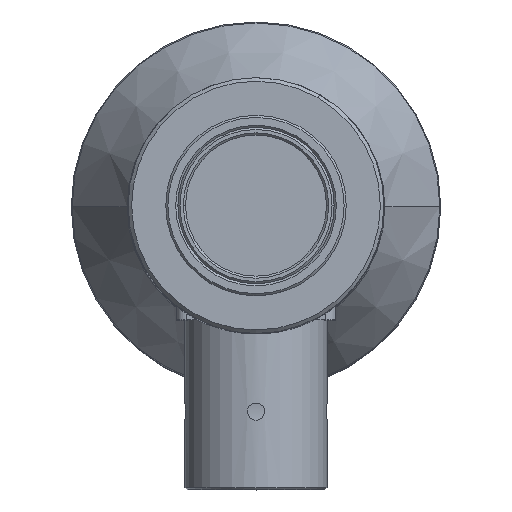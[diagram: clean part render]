
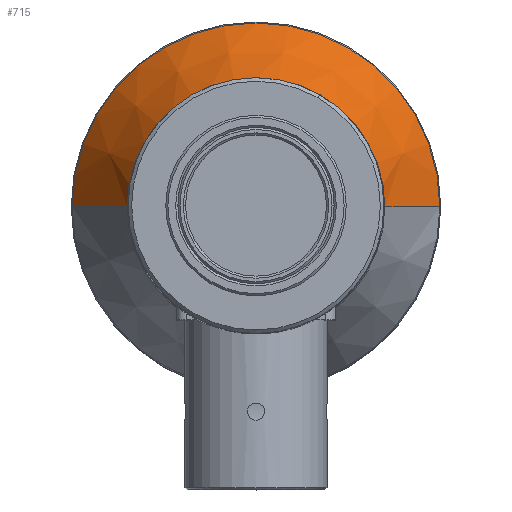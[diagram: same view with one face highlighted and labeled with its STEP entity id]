
A CAD part, top view. The second image highlights one B-rep face of the part: STEP entity #715.
In plain terms, the highlighted conical face has half-angle 30 degrees and reference radius 26 mm.
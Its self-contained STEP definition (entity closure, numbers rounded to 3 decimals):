
#186 = EDGE_CURVE ( 'NONE', #3292, #1090, #2436, .T. ) ;
#278 = CIRCLE ( 'NONE', #4494, 18.134 ) ;
#425 = FACE_OUTER_BOUND ( 'NONE', #582, .T. ) ;
#582 = EDGE_LOOP ( 'NONE', ( #970, #3163, #1708, #4678 ) ) ;
#715 = ADVANCED_FACE ( 'NONE', ( #425 ), #4404, .T. ) ;
#735 = DIRECTION ( 'NONE',  ( 0.5, 0., -0.866 ) ) ;
#962 = VECTOR ( 'NONE', #735, 1000. ) ;
#970 = ORIENTED_EDGE ( 'NONE', *, *, #2956, .T. ) ;
#1017 = LINE ( 'NONE', #1894, #962 ) ;
#1090 = VERTEX_POINT ( 'NONE', #1762 ) ;
#1279 = CARTESIAN_POINT ( 'NONE',  ( 0., 0., 0.099 ) ) ;
#1332 = EDGE_CURVE ( 'NONE', #3401, #1090, #3255, .T. ) ;
#1622 = DIRECTION ( 'NONE',  ( 0., 0., -1. ) ) ;
#1628 = DIRECTION ( 'NONE',  ( -0.5, 0., -0.866 ) ) ;
#1682 = DIRECTION ( 'NONE',  ( 0., 0., -1. ) ) ;
#1708 = ORIENTED_EDGE ( 'NONE', *, *, #186, .T. ) ;
#1762 = CARTESIAN_POINT ( 'NONE',  ( -25.866, 0., -13.293 ) ) ;
#1889 = AXIS2_PLACEMENT_3D ( 'NONE', #1998, #1622, #3680 ) ;
#1894 = CARTESIAN_POINT ( 'NONE',  ( 26., 0., -13.525 ) ) ;
#1998 = CARTESIAN_POINT ( 'NONE',  ( 0., 0., -13.525 ) ) ;
#2184 = DIRECTION ( 'NONE',  ( 0., 0., 1. ) ) ;
#2431 = VECTOR ( 'NONE', #1628, 1000. ) ;
#2436 = CIRCLE ( 'NONE', #4081, 25.866 ) ;
#2956 = EDGE_CURVE ( 'NONE', #3401, #4744, #278, .T. ) ;
#3163 = ORIENTED_EDGE ( 'NONE', *, *, #4661, .T. ) ;
#3255 = LINE ( 'NONE', #4434, #2431 ) ;
#3292 = VERTEX_POINT ( 'NONE', #4136 ) ;
#3351 = CARTESIAN_POINT ( 'NONE',  ( -18.134, 0., 0.099 ) ) ;
#3401 = VERTEX_POINT ( 'NONE', #3351 ) ;
#3642 = DIRECTION ( 'NONE',  ( -1., 0., 0. ) ) ;
#3658 = CARTESIAN_POINT ( 'NONE',  ( 18.134, 0., 0.099 ) ) ;
#3680 = DIRECTION ( 'NONE',  ( -1., 0., 0. ) ) ;
#4081 = AXIS2_PLACEMENT_3D ( 'NONE', #4629, #2184, #4721 ) ;
#4136 = CARTESIAN_POINT ( 'NONE',  ( 25.866, 0., -13.293 ) ) ;
#4404 = CONICAL_SURFACE ( 'NONE', #1889, 26., 0.524 ) ;
#4434 = CARTESIAN_POINT ( 'NONE',  ( -26., 0., -13.525 ) ) ;
#4494 = AXIS2_PLACEMENT_3D ( 'NONE', #1279, #1682, #3642 ) ;
#4629 = CARTESIAN_POINT ( 'NONE',  ( 0., 0., -13.293 ) ) ;
#4661 = EDGE_CURVE ( 'NONE', #4744, #3292, #1017, .T. ) ;
#4678 = ORIENTED_EDGE ( 'NONE', *, *, #1332, .F. ) ;
#4721 = DIRECTION ( 'NONE',  ( 1., 0., 0. ) ) ;
#4744 = VERTEX_POINT ( 'NONE', #3658 ) ;
